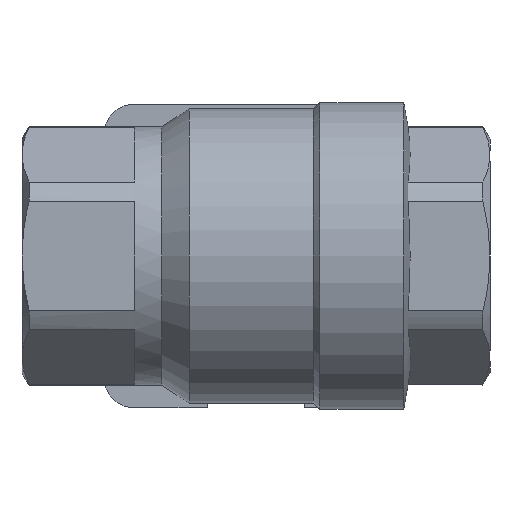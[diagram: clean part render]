
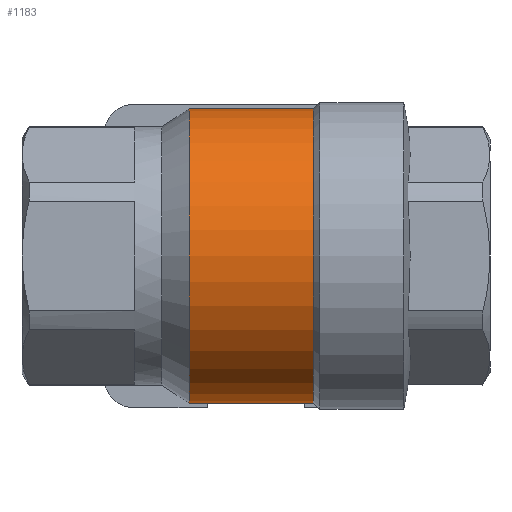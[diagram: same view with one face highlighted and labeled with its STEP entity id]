
A CAD part, front view. The second image highlights one B-rep face of the part: STEP entity #1183.
In plain terms, the highlighted cylindrical face has radius 24.2 mm (diameter 48.4 mm), a partial arc.
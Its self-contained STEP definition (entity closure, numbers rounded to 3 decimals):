
#45 = VECTOR ( 'NONE', #213, 1000. ) ;
#57 = EDGE_CURVE ( 'NONE', #3513, #3597, #2587, .T. ) ;
#113 = ORIENTED_EDGE ( 'NONE', *, *, #57, .F. ) ;
#213 = DIRECTION ( 'NONE',  ( -1., 0., 0. ) ) ;
#230 = EDGE_CURVE ( 'NONE', #3436, #3597, #2802, .T. ) ;
#552 = CYLINDRICAL_SURFACE ( 'NONE', #827, 24.2 ) ;
#639 = ORIENTED_EDGE ( 'NONE', *, *, #960, .T. ) ;
#683 = CIRCLE ( 'NONE', #1491, 24.2 ) ;
#775 = CARTESIAN_POINT ( 'NONE',  ( -55.019, 0., -24.2 ) ) ;
#827 = AXIS2_PLACEMENT_3D ( 'NONE', #1664, #3672, #1968 ) ;
#944 = CARTESIAN_POINT ( 'NONE',  ( 9.45, 0., 24.2 ) ) ;
#960 = EDGE_CURVE ( 'NONE', #3020, #3436, #683, .T. ) ;
#1057 = DIRECTION ( 'NONE',  ( 0., 0., 1. ) ) ;
#1065 = AXIS2_PLACEMENT_3D ( 'NONE', #3700, #3071, #1057 ) ;
#1183 = ADVANCED_FACE ( 'NONE', ( #1399 ), #552, .T. ) ;
#1188 = EDGE_LOOP ( 'NONE', ( #1892, #639, #1233, #113 ) ) ;
#1233 = ORIENTED_EDGE ( 'NONE', *, *, #230, .T. ) ;
#1399 = FACE_OUTER_BOUND ( 'NONE', #1188, .T. ) ;
#1487 = LINE ( 'NONE', #775, #45 ) ;
#1491 = AXIS2_PLACEMENT_3D ( 'NONE', #1569, #3570, #1858 ) ;
#1518 = DIRECTION ( 'NONE',  ( -1., 0., 0. ) ) ;
#1569 = CARTESIAN_POINT ( 'NONE',  ( 9.45, 0., 0. ) ) ;
#1664 = CARTESIAN_POINT ( 'NONE',  ( -55.019, 0., 0. ) ) ;
#1790 = CARTESIAN_POINT ( 'NONE',  ( -55.019, 0., 24.2 ) ) ;
#1858 = DIRECTION ( 'NONE',  ( 0., 0., 1. ) ) ;
#1892 = ORIENTED_EDGE ( 'NONE', *, *, #3164, .F. ) ;
#1968 = DIRECTION ( 'NONE',  ( 0., 0., 1. ) ) ;
#1971 = VECTOR ( 'NONE', #1518, 1000. ) ;
#2450 = CARTESIAN_POINT ( 'NONE',  ( 9.45, 0., -24.2 ) ) ;
#2587 = CIRCLE ( 'NONE', #1065, 24.2 ) ;
#2767 = CARTESIAN_POINT ( 'NONE',  ( -11., 0., 24.2 ) ) ;
#2802 = LINE ( 'NONE', #1790, #1971 ) ;
#3020 = VERTEX_POINT ( 'NONE', #2450 ) ;
#3071 = DIRECTION ( 'NONE',  ( -1., 0., 0. ) ) ;
#3164 = EDGE_CURVE ( 'NONE', #3020, #3513, #1487, .T. ) ;
#3436 = VERTEX_POINT ( 'NONE', #944 ) ;
#3513 = VERTEX_POINT ( 'NONE', #3574 ) ;
#3570 = DIRECTION ( 'NONE',  ( -1., 0., 0. ) ) ;
#3574 = CARTESIAN_POINT ( 'NONE',  ( -11., 0., -24.2 ) ) ;
#3597 = VERTEX_POINT ( 'NONE', #2767 ) ;
#3672 = DIRECTION ( 'NONE',  ( -1., 0., 0. ) ) ;
#3700 = CARTESIAN_POINT ( 'NONE',  ( -11., 0., 0. ) ) ;
